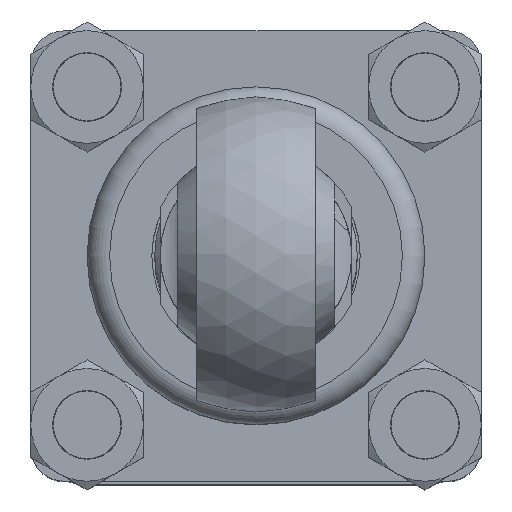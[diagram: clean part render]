
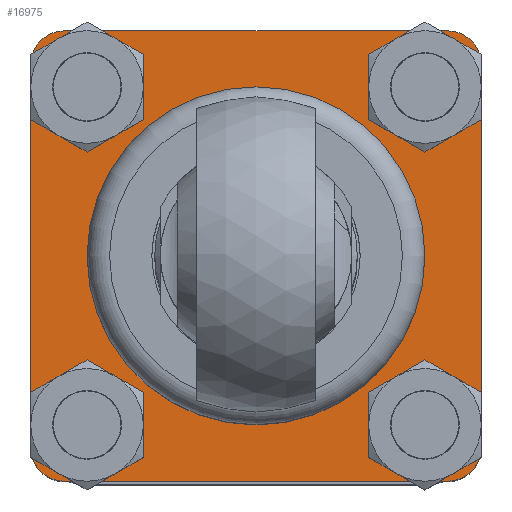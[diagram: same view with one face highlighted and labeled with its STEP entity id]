
A CAD part, top view. The second image highlights one B-rep face of the part: STEP entity #16975.
In plain terms, the highlighted planar face has unit normal (0, 0, 1) as drawn and (0, 0, -1) by its records, which use the part's own axes.
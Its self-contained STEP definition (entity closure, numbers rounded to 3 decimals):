
#899=FACE_BOUND('',#2792,.T.);
#900=FACE_BOUND('',#2793,.T.);
#901=FACE_BOUND('',#2794,.T.);
#902=FACE_BOUND('',#2795,.T.);
#903=FACE_BOUND('',#2796,.T.);
#1119=PLANE('',#18056);
#1746=FACE_OUTER_BOUND('',#2791,.T.);
#2791=EDGE_LOOP('',(#13843,#13844,#13845,#13846,#13847,#13848,#13849,#13850));
#2792=EDGE_LOOP('',(#13851));
#2793=EDGE_LOOP('',(#13852));
#2794=EDGE_LOOP('',(#13853));
#2795=EDGE_LOOP('',(#13854));
#2796=EDGE_LOOP('',(#13855));
#3427=CIRCLE('',#18033,15.);
#3430=CIRCLE('',#18038,3.);
#3438=CIRCLE('',#18049,3.);
#3439=CIRCLE('',#18052,3.);
#3440=CIRCLE('',#18055,3.);
#3441=CIRCLE('',#18057,3.25);
#3442=CIRCLE('',#18058,3.25);
#3443=CIRCLE('',#18059,3.25);
#3444=CIRCLE('',#18060,3.25);
#5377=LINE('',#42556,#6342);
#5383=LINE('',#42584,#6348);
#5386=LINE('',#42592,#6351);
#5388=LINE('',#42598,#6353);
#6342=VECTOR('',#20256,10.);
#6348=VECTOR('',#20284,10.);
#6351=VECTOR('',#20293,10.);
#6353=VECTOR('',#20301,10.);
#7604=VERTEX_POINT('',#42536);
#7608=VERTEX_POINT('',#42546);
#7609=VERTEX_POINT('',#42548);
#7611=VERTEX_POINT('',#42554);
#7621=VERTEX_POINT('',#42578);
#7622=VERTEX_POINT('',#42582);
#7623=VERTEX_POINT('',#42586);
#7624=VERTEX_POINT('',#42588);
#7625=VERTEX_POINT('',#42594);
#7626=VERTEX_POINT('',#42599);
#7627=VERTEX_POINT('',#42601);
#7628=VERTEX_POINT('',#42603);
#7629=VERTEX_POINT('',#42605);
#9783=EDGE_CURVE('',#7604,#7604,#3427,.T.);
#9787=EDGE_CURVE('',#7608,#7609,#3430,.T.);
#9791=EDGE_CURVE('',#7611,#7608,#5377,.T.);
#9803=EDGE_CURVE('',#7621,#7611,#3438,.T.);
#9805=EDGE_CURVE('',#7622,#7621,#5383,.T.);
#9807=EDGE_CURVE('',#7623,#7624,#3439,.T.);
#9809=EDGE_CURVE('',#7609,#7623,#5386,.T.);
#9811=EDGE_CURVE('',#7625,#7622,#3440,.T.);
#9812=EDGE_CURVE('',#7624,#7625,#5388,.T.);
#9813=EDGE_CURVE('',#7626,#7626,#3441,.T.);
#9814=EDGE_CURVE('',#7627,#7627,#3442,.T.);
#9815=EDGE_CURVE('',#7628,#7628,#3443,.T.);
#9816=EDGE_CURVE('',#7629,#7629,#3444,.T.);
#13843=ORIENTED_EDGE('',*,*,#9787,.F.);
#13844=ORIENTED_EDGE('',*,*,#9791,.F.);
#13845=ORIENTED_EDGE('',*,*,#9803,.F.);
#13846=ORIENTED_EDGE('',*,*,#9805,.F.);
#13847=ORIENTED_EDGE('',*,*,#9811,.F.);
#13848=ORIENTED_EDGE('',*,*,#9812,.F.);
#13849=ORIENTED_EDGE('',*,*,#9807,.F.);
#13850=ORIENTED_EDGE('',*,*,#9809,.F.);
#13851=ORIENTED_EDGE('',*,*,#9783,.F.);
#13852=ORIENTED_EDGE('',*,*,#9813,.T.);
#13853=ORIENTED_EDGE('',*,*,#9814,.T.);
#13854=ORIENTED_EDGE('',*,*,#9815,.T.);
#13855=ORIENTED_EDGE('',*,*,#9816,.T.);
#16975=ADVANCED_FACE('',(#1746,#899,#900,#901,#902,#903),#1119,.T.);
#18033=AXIS2_PLACEMENT_3D('',#42538,#20238,#20239);
#18038=AXIS2_PLACEMENT_3D('',#42549,#20249,#20250);
#18049=AXIS2_PLACEMENT_3D('',#42580,#20279,#20280);
#18052=AXIS2_PLACEMENT_3D('',#42589,#20288,#20289);
#18055=AXIS2_PLACEMENT_3D('',#42596,#20297,#20298);
#18056=AXIS2_PLACEMENT_3D('',#42597,#20299,#20300);
#18057=AXIS2_PLACEMENT_3D('',#42600,#20302,#20303);
#18058=AXIS2_PLACEMENT_3D('',#42602,#20304,#20305);
#18059=AXIS2_PLACEMENT_3D('',#42604,#20306,#20307);
#18060=AXIS2_PLACEMENT_3D('',#42606,#20308,#20309);
#20238=DIRECTION('center_axis',(0.,0.,-1.));
#20239=DIRECTION('ref_axis',(1.,0.,0.));
#20249=DIRECTION('center_axis',(0.,0.,1.));
#20250=DIRECTION('ref_axis',(0.707,-0.707,0.));
#20256=DIRECTION('',(1.,0.,0.));
#20279=DIRECTION('center_axis',(0.,0.,1.));
#20280=DIRECTION('ref_axis',(-0.707,-0.707,0.));
#20284=DIRECTION('',(0.,-1.,0.));
#20288=DIRECTION('center_axis',(0.,0.,1.));
#20289=DIRECTION('ref_axis',(0.707,0.707,0.));
#20293=DIRECTION('',(0.,1.,0.));
#20297=DIRECTION('center_axis',(0.,0.,1.));
#20298=DIRECTION('ref_axis',(-0.707,0.707,0.));
#20299=DIRECTION('center_axis',(0.,0.,-1.));
#20300=DIRECTION('ref_axis',(1.,0.,0.));
#20301=DIRECTION('',(-1.,0.,0.));
#20302=DIRECTION('center_axis',(0.,0.,1.));
#20303=DIRECTION('ref_axis',(1.,0.,0.));
#20304=DIRECTION('center_axis',(0.,0.,1.));
#20305=DIRECTION('ref_axis',(-1.,0.,0.));
#20306=DIRECTION('center_axis',(0.,0.,1.));
#20307=DIRECTION('ref_axis',(1.,0.,0.));
#20308=DIRECTION('center_axis',(0.,0.,1.));
#20309=DIRECTION('ref_axis',(-1.,0.,0.));
#42536=CARTESIAN_POINT('',(5.,20.,16.));
#42538=CARTESIAN_POINT('Origin',(20.,20.,16.));
#42546=CARTESIAN_POINT('',(37.,0.,16.));
#42548=CARTESIAN_POINT('',(40.,3.,16.));
#42549=CARTESIAN_POINT('Origin',(37.,3.,16.));
#42554=CARTESIAN_POINT('',(3.,0.,16.));
#42556=CARTESIAN_POINT('',(10.,0.,16.));
#42578=CARTESIAN_POINT('',(0.,3.,16.));
#42580=CARTESIAN_POINT('Origin',(3.,3.,16.));
#42582=CARTESIAN_POINT('',(0.,37.,16.));
#42584=CARTESIAN_POINT('',(0.,30.,16.));
#42586=CARTESIAN_POINT('',(40.,37.,16.));
#42588=CARTESIAN_POINT('',(37.,40.,16.));
#42589=CARTESIAN_POINT('Origin',(37.,37.,16.));
#42592=CARTESIAN_POINT('',(40.,10.,16.));
#42594=CARTESIAN_POINT('',(3.,40.,16.));
#42596=CARTESIAN_POINT('Origin',(3.,37.,16.));
#42597=CARTESIAN_POINT('Origin',(20.,20.,16.));
#42598=CARTESIAN_POINT('',(30.,40.,16.));
#42599=CARTESIAN_POINT('',(1.75,35.,16.));
#42600=CARTESIAN_POINT('Origin',(5.,35.,16.));
#42601=CARTESIAN_POINT('',(38.25,35.,16.));
#42602=CARTESIAN_POINT('Origin',(35.,35.,16.));
#42603=CARTESIAN_POINT('',(1.75,5.,16.));
#42604=CARTESIAN_POINT('Origin',(5.,5.,16.));
#42605=CARTESIAN_POINT('',(38.25,5.,16.));
#42606=CARTESIAN_POINT('Origin',(35.,5.,16.));
